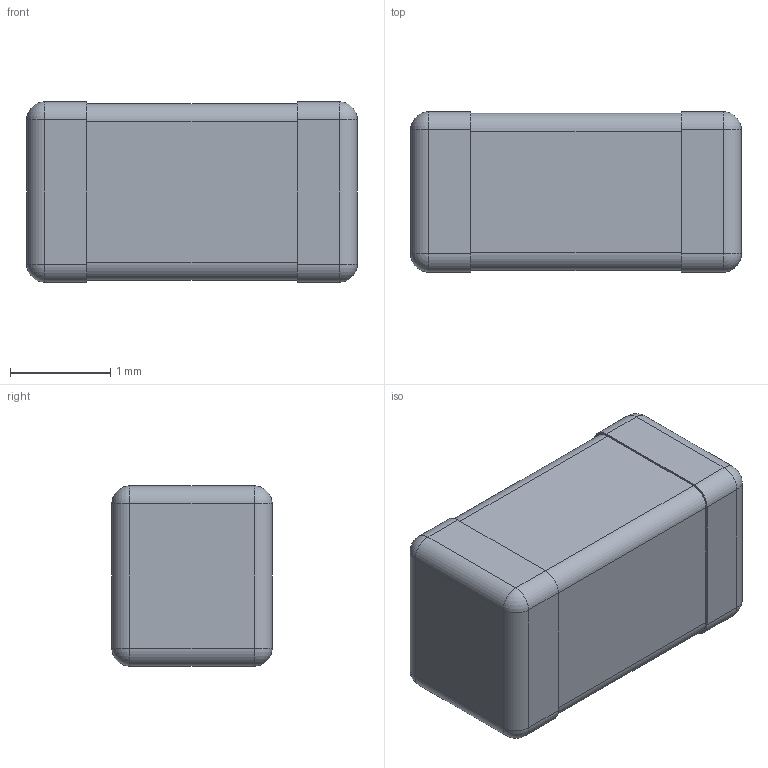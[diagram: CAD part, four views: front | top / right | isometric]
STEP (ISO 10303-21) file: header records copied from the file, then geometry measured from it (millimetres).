
FILE_DESCRIPTION(('FreeCAD Model'),'2;1');
FILE_NAME('/var/www/3D/0T/13404579.2.1.stp','2022-04-27T05:30:05',( 'Author'),(''),'Open CASCADE STEP processor 6.9','FreeCAD','Unknown' );
FILE_SCHEMA(('AUTOMOTIVE_DESIGN { 1 0 10303 214 1 1 1 1 }'));
Length unit declared in the file: millimetre
Products named in the file (4): ASSEMBLY; Fillet1; Fillet2; body2
Assembly tree (3 placements, depth 2):
  ASSEMBLY
    Fillet1
    Fillet2
    body2
Bounding box: 3.3 x 1.6 x 1.8 mm (x, y, z)
Volume: 9.1 mm3; surface area: 37 mm2
Topology: 3 solids, 3 shells, 46 faces, 104 edges, 56 vertices
Faces by surface type: cylinder 20, plane 18, sphere 8
Entity records: 2540 total; most frequent: CARTESIAN_POINT 474, DIRECTION 388, LINE 200, VECTOR 200, ORIENTED_EDGE 192, PCURVE 192, DEFINITIONAL_REPRESENTATION 192, EDGE_CURVE 96
